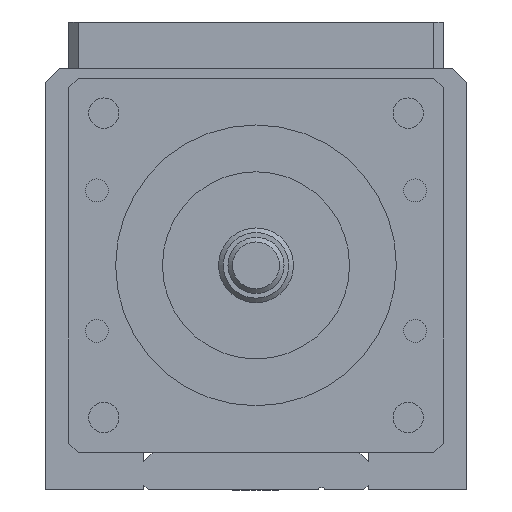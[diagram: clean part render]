
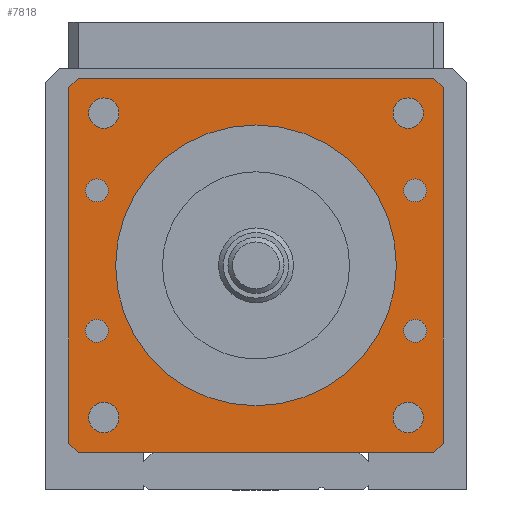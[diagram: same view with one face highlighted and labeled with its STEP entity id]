
A CAD part, left-side view. The second image highlights one B-rep face of the part: STEP entity #7818.
In plain terms, the highlighted planar face has unit normal (-1, 0, 0).
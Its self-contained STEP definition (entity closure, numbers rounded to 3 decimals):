
#7230=CARTESIAN_POINT('',(-9.0,-14.642,7.737));
#7231=VERTEX_POINT('',#7230);
#7232=CARTESIAN_POINT('',(-9.0,-16.263,7.737));
#7233=DIRECTION('',(1.0,0.0,0.0));
#7234=DIRECTION('',(0.0,1.0,0.0));
#7235=AXIS2_PLACEMENT_3D('',#7232,#7233,#7234);
#7236=CIRCLE('',#7235,1.621);
#7237=EDGE_CURVE('',#7231,#7231,#7236,.T.);
#7258=CARTESIAN_POINT('',(-9.0,17.884,40.263));
#7259=VERTEX_POINT('',#7258);
#7260=CARTESIAN_POINT('',(-9.0,16.263,40.263));
#7261=DIRECTION('',(1.0,0.0,0.0));
#7262=DIRECTION('',(0.0,1.0,0.0));
#7263=AXIS2_PLACEMENT_3D('',#7260,#7261,#7262);
#7264=CIRCLE('',#7263,1.621);
#7265=EDGE_CURVE('',#7259,#7259,#7264,.T.);
#7286=CARTESIAN_POINT('',(-9.0,17.884,7.737));
#7287=VERTEX_POINT('',#7286);
#7288=CARTESIAN_POINT('',(-9.0,16.263,7.737));
#7289=DIRECTION('',(1.0,0.0,0.0));
#7290=DIRECTION('',(0.0,1.0,0.0));
#7291=AXIS2_PLACEMENT_3D('',#7288,#7289,#7290);
#7292=CIRCLE('',#7291,1.621);
#7293=EDGE_CURVE('',#7287,#7287,#7292,.T.);
#7314=CARTESIAN_POINT('',(-9.0,-14.642,40.263));
#7315=VERTEX_POINT('',#7314);
#7316=CARTESIAN_POINT('',(-9.0,-16.263,40.263));
#7317=DIRECTION('',(1.0,0.0,0.0));
#7318=DIRECTION('',(0.0,1.0,0.0));
#7319=AXIS2_PLACEMENT_3D('',#7316,#7317,#7318);
#7320=CIRCLE('',#7319,1.621);
#7321=EDGE_CURVE('',#7315,#7315,#7320,.T.);
#7334=CARTESIAN_POINT('',(-9.0,-15.771,32.));
#7335=VERTEX_POINT('',#7334);
#7336=CARTESIAN_POINT('',(-9.0,-17.0,32.));
#7337=DIRECTION('',(1.0,0.0,0.0));
#7338=DIRECTION('',(0.0,1.0,0.0));
#7339=AXIS2_PLACEMENT_3D('',#7336,#7337,#7338);
#7340=CIRCLE('',#7339,1.23);
#7341=EDGE_CURVE('',#7335,#7335,#7340,.T.);
#7354=CARTESIAN_POINT('',(-9.0,18.229,32.));
#7355=VERTEX_POINT('',#7354);
#7356=CARTESIAN_POINT('',(-9.0,17.,32.));
#7357=DIRECTION('',(1.0,0.0,0.0));
#7358=DIRECTION('',(0.0,1.0,0.0));
#7359=AXIS2_PLACEMENT_3D('',#7356,#7357,#7358);
#7360=CIRCLE('',#7359,1.23);
#7361=EDGE_CURVE('',#7355,#7355,#7360,.T.);
#7374=CARTESIAN_POINT('',(-9.0,18.229,17.));
#7375=VERTEX_POINT('',#7374);
#7376=CARTESIAN_POINT('',(-9.0,17.,17.));
#7377=DIRECTION('',(1.0,0.0,0.0));
#7378=DIRECTION('',(0.0,1.0,0.0));
#7379=AXIS2_PLACEMENT_3D('',#7376,#7377,#7378);
#7380=CIRCLE('',#7379,1.23);
#7381=EDGE_CURVE('',#7375,#7375,#7380,.T.);
#7394=CARTESIAN_POINT('',(-9.0,-15.77,17.));
#7395=VERTEX_POINT('',#7394);
#7396=CARTESIAN_POINT('',(-9.0,-17.0,17.));
#7397=DIRECTION('',(1.0,0.0,0.0));
#7398=DIRECTION('',(0.0,1.0,0.0));
#7399=AXIS2_PLACEMENT_3D('',#7396,#7397,#7398);
#7400=CIRCLE('',#7399,1.23);
#7401=EDGE_CURVE('',#7395,#7395,#7400,.T.);
#7422=CARTESIAN_POINT('',(-9.0,0.0,39.));
#7423=VERTEX_POINT('',#7422);
#7424=CARTESIAN_POINT('',(-9.0,0.0,24.));
#7425=DIRECTION('',(1.0,0.0,0.0));
#7426=DIRECTION('',(0.0,0.0,1.0));
#7427=AXIS2_PLACEMENT_3D('',#7424,#7425,#7426);
#7428=CIRCLE('',#7427,15.0);
#7429=EDGE_CURVE('',#7423,#7423,#7428,.T.);
#7529=CARTESIAN_POINT('',(-9.0,19.,44.));
#7530=VERTEX_POINT('',#7529);
#7537=CARTESIAN_POINT('',(-9.0,-19.0,44.));
#7538=VERTEX_POINT('',#7537);
#7539=CARTESIAN_POINT('',(-9.0,-19.0,44.));
#7540=DIRECTION('',(0.0,1.0,0.0));
#7541=VECTOR('',#7540,38.0);
#7542=LINE('',#7539,#7541);
#7543=EDGE_CURVE('',#7538,#7530,#7542,.T.);
#7567=CARTESIAN_POINT('',(-9.0,20.0,43.));
#7568=VERTEX_POINT('',#7567);
#7575=CARTESIAN_POINT('',(-9.0,19.,44.));
#7576=DIRECTION('',(0.0,0.707,-0.707));
#7577=VECTOR('',#7576,1.414);
#7578=LINE('',#7575,#7577);
#7579=EDGE_CURVE('',#7530,#7568,#7578,.T.);
#7598=CARTESIAN_POINT('',(-9.0,20.,5.));
#7599=VERTEX_POINT('',#7598);
#7606=CARTESIAN_POINT('',(-9.0,20.0,43.));
#7607=DIRECTION('',(0.0,0.0,-1.0));
#7608=VECTOR('',#7607,38.);
#7609=LINE('',#7606,#7608);
#7610=EDGE_CURVE('',#7568,#7599,#7609,.T.);
#7629=CARTESIAN_POINT('',(-9.0,19.,4.));
#7630=VERTEX_POINT('',#7629);
#7637=CARTESIAN_POINT('',(-9.0,20.,5.));
#7638=DIRECTION('',(0.0,-0.707,-0.707));
#7639=VECTOR('',#7638,1.414);
#7640=LINE('',#7637,#7639);
#7641=EDGE_CURVE('',#7599,#7630,#7640,.T.);
#7674=CARTESIAN_POINT('',(-9.0,-19.0,4.));
#7675=VERTEX_POINT('',#7674);
#7682=CARTESIAN_POINT('',(-9.0,19.,4.));
#7683=DIRECTION('',(0.0,-1.0,0.0));
#7684=VECTOR('',#7683,38.0);
#7685=LINE('',#7682,#7684);
#7686=EDGE_CURVE('',#7630,#7675,#7685,.T.);
#7705=CARTESIAN_POINT('',(-9.0,-20.0,5.));
#7706=VERTEX_POINT('',#7705);
#7713=CARTESIAN_POINT('',(-9.0,-19.0,4.));
#7714=DIRECTION('',(0.0,-0.707,0.707));
#7715=VECTOR('',#7714,1.414);
#7716=LINE('',#7713,#7715);
#7717=EDGE_CURVE('',#7675,#7706,#7716,.T.);
#7736=CARTESIAN_POINT('',(-9.0,-20.,43.));
#7737=VERTEX_POINT('',#7736);
#7744=CARTESIAN_POINT('',(-9.0,-20.0,5.));
#7745=DIRECTION('',(0.0,0.0,1.0));
#7746=VECTOR('',#7745,38.);
#7747=LINE('',#7744,#7746);
#7748=EDGE_CURVE('',#7706,#7737,#7747,.T.);
#7766=CARTESIAN_POINT('',(-9.0,-20.,43.));
#7767=DIRECTION('',(0.0,0.707,0.707));
#7768=VECTOR('',#7767,1.414);
#7769=LINE('',#7766,#7768);
#7770=EDGE_CURVE('',#7737,#7538,#7769,.T.);
#7776=CARTESIAN_POINT('',(-9.0,0.,24.));
#7777=DIRECTION('',(1.0,0.0,0.0));
#7778=DIRECTION('',(0.0,0.0,-1.0));
#7779=AXIS2_PLACEMENT_3D('',#7776,#7777,#7778);
#7780=PLANE('',#7779);
#7781=ORIENTED_EDGE('',*,*,#7770,.T.);
#7782=ORIENTED_EDGE('',*,*,#7543,.T.);
#7783=ORIENTED_EDGE('',*,*,#7579,.T.);
#7784=ORIENTED_EDGE('',*,*,#7610,.T.);
#7785=ORIENTED_EDGE('',*,*,#7641,.T.);
#7786=ORIENTED_EDGE('',*,*,#7686,.T.);
#7787=ORIENTED_EDGE('',*,*,#7717,.T.);
#7788=ORIENTED_EDGE('',*,*,#7748,.T.);
#7789=EDGE_LOOP('',(#7781,#7782,#7783,#7784,#7785,#7786,#7787,#7788));
#7790=FACE_OUTER_BOUND('',#7789,.T.);
#7791=ORIENTED_EDGE('',*,*,#7237,.T.);
#7792=EDGE_LOOP('',(#7791));
#7793=FACE_BOUND('',#7792,.T.);
#7794=ORIENTED_EDGE('',*,*,#7265,.T.);
#7795=EDGE_LOOP('',(#7794));
#7796=FACE_BOUND('',#7795,.T.);
#7797=ORIENTED_EDGE('',*,*,#7293,.T.);
#7798=EDGE_LOOP('',(#7797));
#7799=FACE_BOUND('',#7798,.T.);
#7800=ORIENTED_EDGE('',*,*,#7321,.T.);
#7801=EDGE_LOOP('',(#7800));
#7802=FACE_BOUND('',#7801,.T.);
#7803=ORIENTED_EDGE('',*,*,#7341,.T.);
#7804=EDGE_LOOP('',(#7803));
#7805=FACE_BOUND('',#7804,.T.);
#7806=ORIENTED_EDGE('',*,*,#7361,.T.);
#7807=EDGE_LOOP('',(#7806));
#7808=FACE_BOUND('',#7807,.T.);
#7809=ORIENTED_EDGE('',*,*,#7381,.T.);
#7810=EDGE_LOOP('',(#7809));
#7811=FACE_BOUND('',#7810,.T.);
#7812=ORIENTED_EDGE('',*,*,#7401,.T.);
#7813=EDGE_LOOP('',(#7812));
#7814=FACE_BOUND('',#7813,.T.);
#7815=ORIENTED_EDGE('',*,*,#7429,.T.);
#7816=EDGE_LOOP('',(#7815));
#7817=FACE_BOUND('',#7816,.T.);
#7818=ADVANCED_FACE('',(#7790,#7793,#7796,#7799,#7802,#7805,#7808,#7811,#7814,#7817),#7780,.F.);
